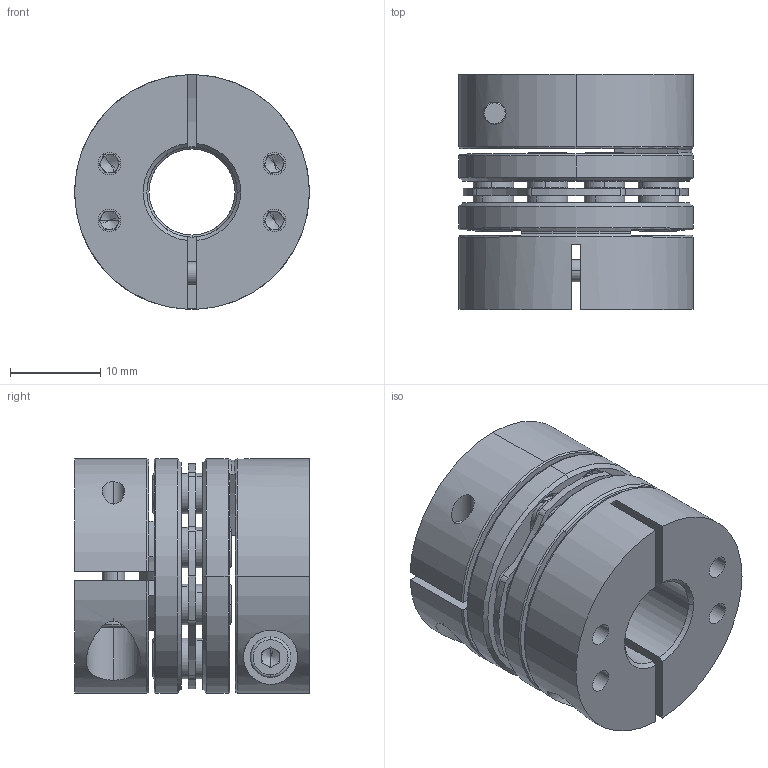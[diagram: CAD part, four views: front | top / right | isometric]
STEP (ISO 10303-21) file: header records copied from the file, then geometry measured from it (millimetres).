
FILE_DESCRIPTION (( 'STEP AP203' ), '1' );
FILE_NAME ('LDG-D26-9.525-10.STEP', '2021-10-28T04:29:02', ( '' ), ( '' ), 'SwSTEP 2.0', 'SolidWorks 2018', '' );
FILE_SCHEMA (( 'CONFIG_CONTROL_DESIGN' ));
Length unit declared in the file: millimetre
Products named in the file (2): LDG-D26-9.525-10; 錨璃2^LDG-D26蚾饜芞1
Assembly tree (1 placements, depth 2):
  LDG-D26-9.525-10
    錨璃2^LDG-D26蚾饜芞1
Bounding box: 26 x 26 x 26 mm (x, y, z)
Volume: 9603.7 mm3; surface area: 8925.5 mm2
Topology: 1 solids, 21 shells, 765 faces, 1872 edges, 1159 vertices
Faces by surface type: cylinder 301, plane 244, cone 200, torus 20
Entity records: 23057 total; most frequent: DIRECTION 4281, CARTESIAN_POINT 4164, ORIENTED_EDGE 3688, EDGE_CURVE 1844, AXIS2_PLACEMENT_3D 1740, VERTEX_POINT 1159, CIRCLE 971, EDGE_LOOP 909
